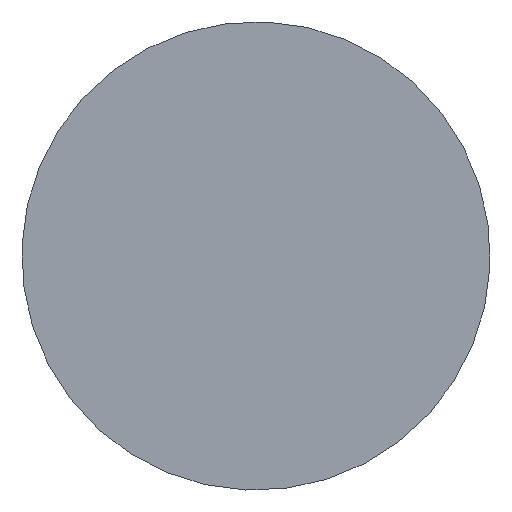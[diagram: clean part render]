
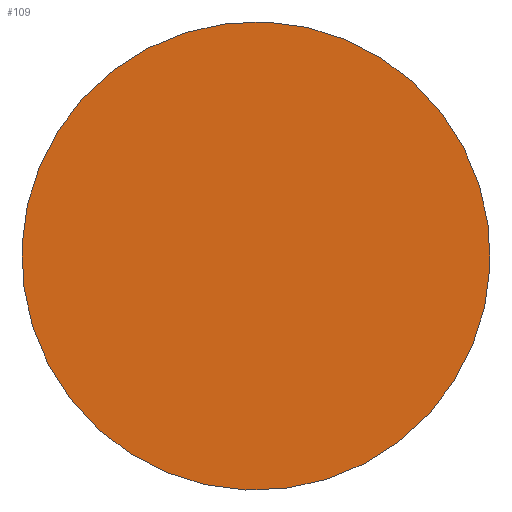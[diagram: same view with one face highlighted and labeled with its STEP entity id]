
A CAD part, front view. The second image highlights one B-rep face of the part: STEP entity #109.
In plain terms, the highlighted planar face has unit normal (0, -1, 0).
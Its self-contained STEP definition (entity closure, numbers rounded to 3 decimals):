
#24 = VERTEX_POINT('',#25);
#25 = CARTESIAN_POINT('',(40.365,34.,15.839));
#32 = CYLINDRICAL_SURFACE('',#33,2.5);
#33 = AXIS2_PLACEMENT_3D('',#34,#35,#36);
#34 = CARTESIAN_POINT('',(37.924,45.5,16.38));
#35 = DIRECTION('',(0.,1.,0.));
#36 = DIRECTION('',(0.976,0.,-0.216));
#51 = EDGE_CURVE('',#24,#24,#52,.T.);
#52 = SURFACE_CURVE('',#53,(#58,#65),.PCURVE_S1.);
#53 = CIRCLE('',#54,2.5);
#54 = AXIS2_PLACEMENT_3D('',#55,#56,#57);
#55 = CARTESIAN_POINT('',(37.924,34.,16.38));
#56 = DIRECTION('',(0.,-1.,0.));
#57 = DIRECTION('',(0.976,0.,-0.216));
#58 = PCURVE('',#32,#59);
#59 = DEFINITIONAL_REPRESENTATION('',(#60),#64);
#60 = LINE('',#61,#62);
#61 = CARTESIAN_POINT('',(-0.,-11.5));
#62 = VECTOR('',#63,1.);
#63 = DIRECTION('',(-1.,0.));
#64 = ( GEOMETRIC_REPRESENTATION_CONTEXT(2) 
PARAMETRIC_REPRESENTATION_CONTEXT() REPRESENTATION_CONTEXT('2D SPACE',''
  ) );
#65 = PCURVE('',#66,#71);
#66 = PLANE('',#67);
#67 = AXIS2_PLACEMENT_3D('',#68,#69,#70);
#68 = CARTESIAN_POINT('',(37.924,34.,16.38));
#69 = DIRECTION('',(-0.,-1.,0.));
#70 = DIRECTION('',(-0.216,0.,-0.976));
#71 = DEFINITIONAL_REPRESENTATION('',(#72),#76);
#72 = CIRCLE('',#73,2.5);
#73 = AXIS2_PLACEMENT_2D('',#74,#75);
#74 = CARTESIAN_POINT('',(0.,0.));
#75 = DIRECTION('',(0.,1.));
#76 = ( GEOMETRIC_REPRESENTATION_CONTEXT(2) 
PARAMETRIC_REPRESENTATION_CONTEXT() REPRESENTATION_CONTEXT('2D SPACE',''
  ) );
#109 = ADVANCED_FACE('',(#110),#66,.T.);
#110 = FACE_BOUND('',#111,.T.);
#111 = EDGE_LOOP('',(#112));
#112 = ORIENTED_EDGE('',*,*,#51,.T.);
